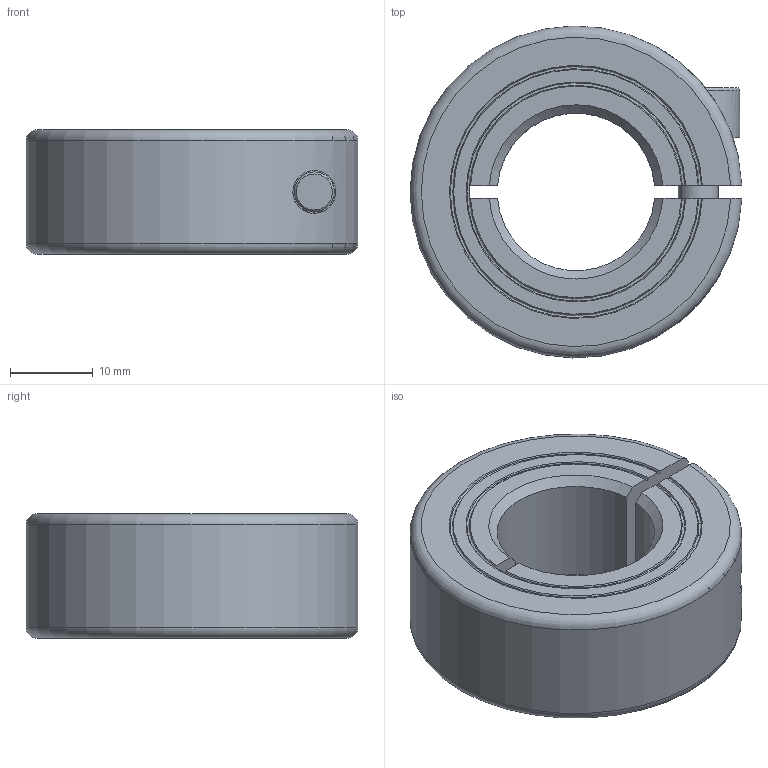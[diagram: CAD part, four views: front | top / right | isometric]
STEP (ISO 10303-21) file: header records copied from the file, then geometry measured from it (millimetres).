
FILE_DESCRIPTION((''),'2;1');
FILE_NAME('MCL-19-F','2016-09-08T',('SYSTEM'),(''),'PRO/ENGINEER BY PARAMETRIC TECHNOLOGY CORPORATION, 2015110','PRO/ENGINEER BY PARAMETRIC TECHNOLOGY CORPORATION, 2015110','');
FILE_SCHEMA(('AUTOMOTIVE_DESIGN { 1 0 10303 214 1 1 1 1 }'));
Length unit declared in the file: inch
Products named in the file (1): MCL-19-F
Bounding box: 39.98 x 39.99 x 15 mm (x, y, z)
Volume: 13776.5 mm3; surface area: 5781.4 mm2
Topology: 1 solids, 1 shells, 51 faces, 135 edges, 90 vertices
Faces by surface type: plane 22, cone 13, cylinder 12, torus 4
Entity records: 2159 total; most frequent: CARTESIAN_POINT 481, ORIENTED_EDGE 270, DIRECTION 252, EDGE_CURVE 135, AXIS2_PLACEMENT_3D 99, VERTEX_POINT 90, EDGE_LOOP 57, VECTOR 54
